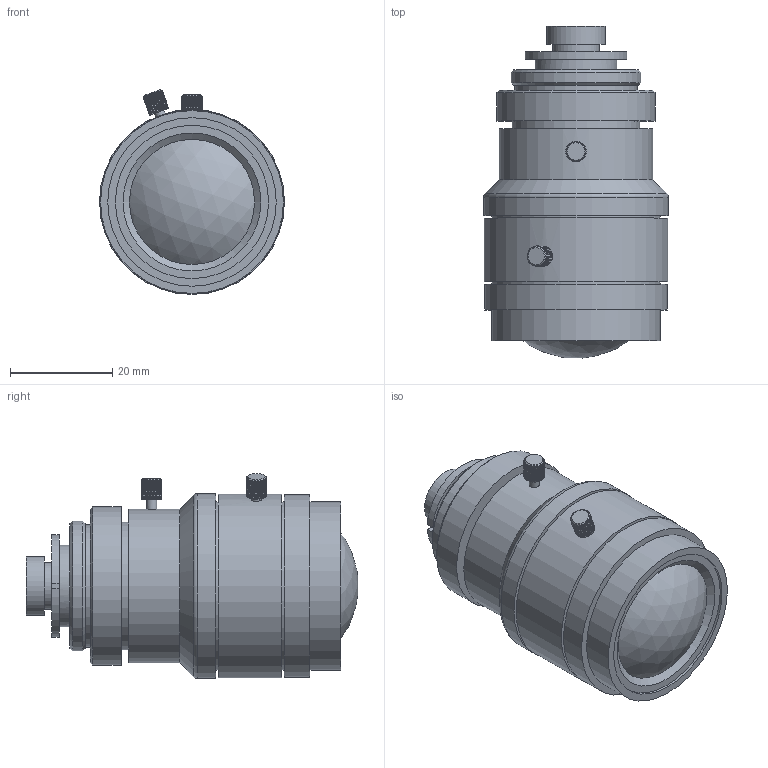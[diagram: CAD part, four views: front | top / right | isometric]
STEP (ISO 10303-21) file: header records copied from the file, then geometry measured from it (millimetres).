
FILE_DESCRIPTION(('STEP AP214'),'1');
FILE_NAME('MY125M.stp','2026-08-18T03:19:10',(' '),(' '),'Spatial InterOp 3D',' ',' ');
FILE_SCHEMA(('AUTOMOTIVE_DESIGN { 1 0 10303 214 1 1 1 1 }'));
Length unit declared in the file: metre
Products named in the file (2): MY125M; Component1
Assembly tree (1 placements, depth 2):
  MY125M
    Component1
Bounding box: 36.2 x 64.99 x 40.11 mm (x, y, z)
Volume: 46256 mm3; surface area: 9709.8 mm2
Topology: 1 solids, 1 shells, 228 faces, 601 edges, 399 vertices
Faces by surface type: plane 195, cylinder 23, cone 8, sphere 1, torus 1
Full cylindrical faces by diameter (mm): 1 x2, 2 x2, 9.2 x1, 11.5 x1, 16 x1, 17.5 x1, 22 x1, 24 x1, 25 x1, 25.4 x1, 30 x2, 31 x1, 33 x3, 35.8 x1, 36 x1, 36.2 x1
Entity records: 8827 total; most frequent: CARTESIAN_POINT 1729, ORIENTED_EDGE 1128, DIRECTION 920, EDGE_CURVE 564, VERTEX_POINT 393, LINE 344, VECTOR 344, AXIS2_PLACEMENT_3D 288
